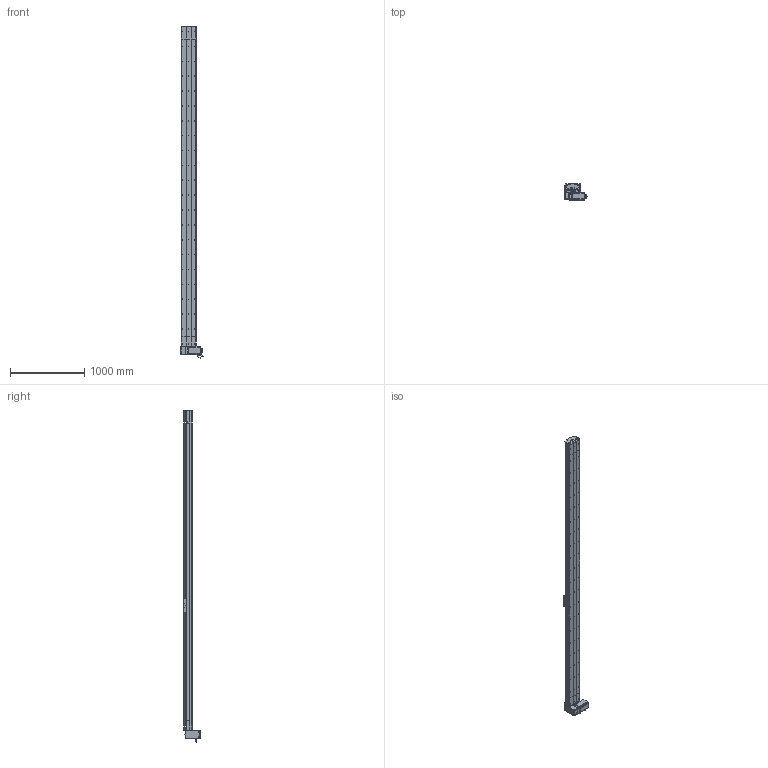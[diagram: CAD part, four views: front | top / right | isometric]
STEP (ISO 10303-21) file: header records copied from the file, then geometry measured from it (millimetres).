
FILE_DESCRIPTION (( 'STEP AP214' ), '1' );
FILE_NAME ('D20 TBH RU S4000.STEP', '2010-07-01T09:14:08', ( 'Conseil Régional Haute-Normandie' ), ( 'Conseil Régional Haute-Normandie' ), 'SwSTEP 2.0', 'SolidWorks 2010', '' );
FILE_SCHEMA (( 'AUTOMOTIVE_DESIGN' ));
Length unit declared in the file: millimetre
Products named in the file (40): poulie tail D20_Default; plaque de  bout tail D20_Default; rail head D20; clavette; head RU_Default; Course B L4000_Default; codeur 110BLDC170A-630x; corps 110BLDC170A-630x; avant 110BLDC170A-630x; Renvoi RU D20_Default; vis M5 L25_Default; vis M5 L5_Default; Moteur motionking 110BLDC170A-640x; vis M5 L70_Default; Plaque racord D20LH_Default; couroie_Default; cache D20_Default; cache arbre D20_Default; plaque de  bout head D20B RU_Default; poulie head D20_Default; D20 TBH RU S4000; vis M5 L12_Default; Couroie tail D20_Default; corp D20 S4000_Default; couvercle D20 S4000_Default; rail + couroie  D20 S4000; chariot D20B_Default; couvercle head D20_Default; rail tail D20; corpl head D20_Default; Conecteur2_Default; vis M8 L12_Default; couvercle tail D20_Default; tete d''axe poulie D20B; vis M5 L8 90°_Default; Chariot D20B; guide D20B; tail D20_Default; Conecteur_Default; corpl tail D20_Default
Assembly tree (71 placements, depth 4):
  D20 TBH RU S4000
    Course B L4000_Default
      couvercle D20 S4000_Default
      rail + couroie  D20 S4000
      corp D20 S4000_Default
    chariot D20B_Default
      vis M5 L12_Default  x4
      guide D20B  x2
      Chariot D20B
    tail D20_Default
      vis M5 L25_Default  x2
      plaque de  bout tail D20_Default
      poulie tail D20_Default
      corpl tail D20_Default
      couvercle tail D20_Default
      vis M5 L12_Default  x4
      Couroie tail D20_Default
      vis M5 L8 90°_Default  x2
      tete d''axe poulie D20B
      rail tail D20
    head RU_Default
      cache arbre D20_Default
      Moteur motionking 110BLDC170A-640x
        corps 110BLDC170A-630x
        codeur 110BLDC170A-630x
        clavette
        Conecteur_Default
        Conecteur2_Default
        avant 110BLDC170A-630x
      vis M5 L12_Default  x10
      vis M5 L5_Default  x4
      vis M8 L12_Default  x4
      cache D20_Default  x2
      plaque de  bout head D20B RU_Default
      Plaque racord D20LH_Default
      vis M5 L70_Default  x4
      couvercle head D20_Default
      vis M5 L25_Default  x2
      couroie_Default
      Renvoi RU D20_Default
      corpl head D20_Default
      rail head D20
      poulie head D20_Default
Bounding box: 304.2 x 223.2 x 4465 mm (x, y, z)
Volume: 33909637.9 mm3; surface area: 8477678.4 mm2
Topology: 95 solids, 95 shells, 2947 faces, 7677 edges, 4969 vertices
Faces by surface type: plane 1656, cylinder 967, bspline 136, cone 99, torus 89
Entity records: 97342 total; most frequent: CARTESIAN_POINT 32073, ORIENTED_EDGE 12010, DIRECTION 11218, EDGE_CURVE 6005, VERTEX_POINT 3955, AXIS2_PLACEMENT_3D 3748, VECTOR 3722, LINE 3722
